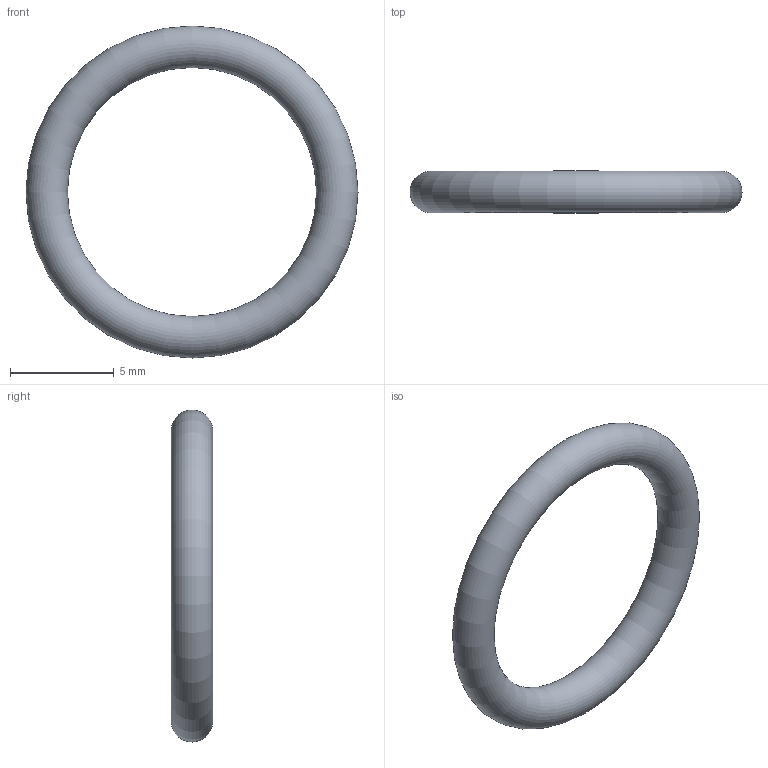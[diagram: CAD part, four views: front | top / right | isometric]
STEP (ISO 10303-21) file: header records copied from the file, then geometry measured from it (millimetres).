
FILE_DESCRIPTION( ( 'STEP AP203' ), '1' );
FILE_NAME( 'C:/Temp/Ganter_Step_05_03_2020/data/3_5/or638/O-Ring OR638-12.00-2.00-70.stp', '2020-03-12T13:44:21', ( 'License CC BY-ND 4.0' ), ( 'CADENAS' ), ' ', 'PARTsolutions', ' ' );
FILE_SCHEMA( ( 'CONFIG_CONTROL_DESIGN' ) );
Length unit declared in the file: millimetre
Products named in the file (1): _O-Ring OR638-12.00-2.00-70
Bounding box: 16 x 2 x 16 mm (x, y, z)
Volume: 138.2 mm3; surface area: 276.3 mm2
Topology: 1 solids, 1 shells, 1 faces, 2 edges, 1 vertices
Faces by surface type: torus 1
Entity records: 62 total; most frequent: CC_DESIGN_PERSON_AND_ORGANIZATION_ASSIGNMENT 5, PERSON_AND_ORGANIZATION_ROLE 4, DIRECTION 4, CARTESIAN_POINT 3, DATE_TIME_ROLE 2, CC_DESIGN_DATE_AND_TIME_ASSIGNMENT 2, AXIS2_PLACEMENT_3D 2, DIMENSIONAL_EXPONENTS 2
